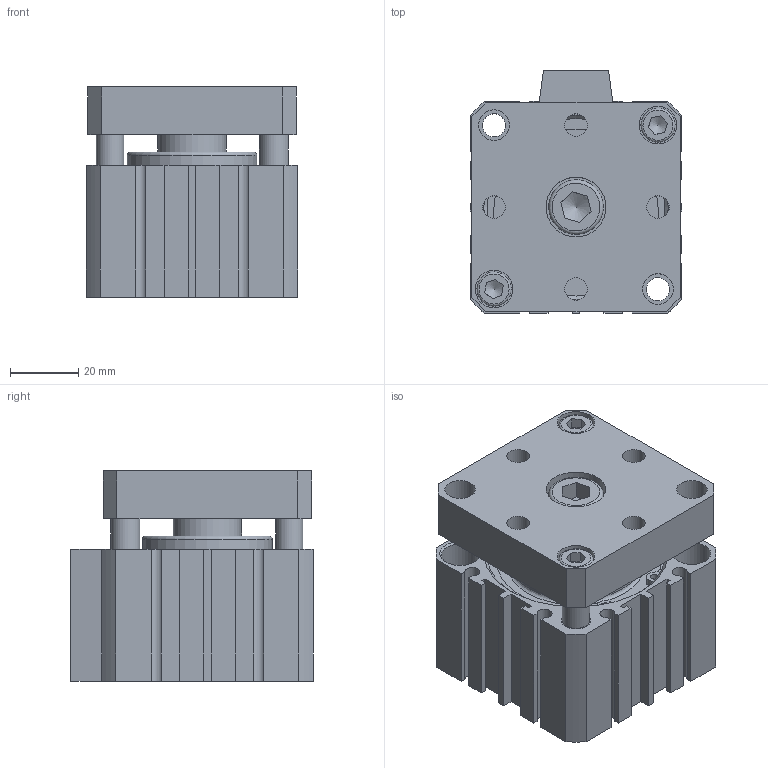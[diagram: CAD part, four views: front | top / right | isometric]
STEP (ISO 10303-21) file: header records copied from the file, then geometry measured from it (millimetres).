
FILE_DESCRIPTION((''),'2;1');
FILE_NAME('I:\3D電子目錄\氣缸\JTD\JTD\JTD50\JTD50x10.stp','2007-08-14T19:25:32',('Administrator'),(''),'Autodesk Inventor 11','Autodesk Inventor 11','');
FILE_SCHEMA(('AUTOMOTIVE_DESIGN { 1 0 10303 214 1 1 1 1 }'));
Length unit declared in the file: millimetre
Products named in the file (5): JTD50; R 形環 52; ISO 4762 M10 x 16; ISO 4762 M6 x 20
Assembly tree (6 placements, depth 2):
  JTD50
    JTD50
    R 形環 52  x2
    ISO 4762 M10 x 16
    ISO 4762 M6 x 20  x2
Bounding box: 62 x 71 x 61.6 mm (x, y, z)
Volume: 175903.2 mm3; surface area: 51060.5 mm2
Topology: 6 solids, 6 shells, 228 faces, 548 edges, 360 vertices
Faces by surface type: plane 135, cylinder 58, bspline 16, cone 14, torus 5
Full cylindrical faces by diameter (mm): 2.3 x4, 2.7 x2, 6 x2, 6.8 x2, 8 x2, 8.5 x3, 9 x2, 10 x3, 11 x4, 16 x1, 20 x1, 37 x1, 38 x1, 52 x4, 55 x2
Entity records: 5925 total; most frequent: CARTESIAN_POINT 1242, DIRECTION 938, ORIENTED_EDGE 844, EDGE_CURVE 422, AXIS2_PLACEMENT_3D 331, EDGE_LOOP 314, VERTEX_POINT 313, VECTOR 276
